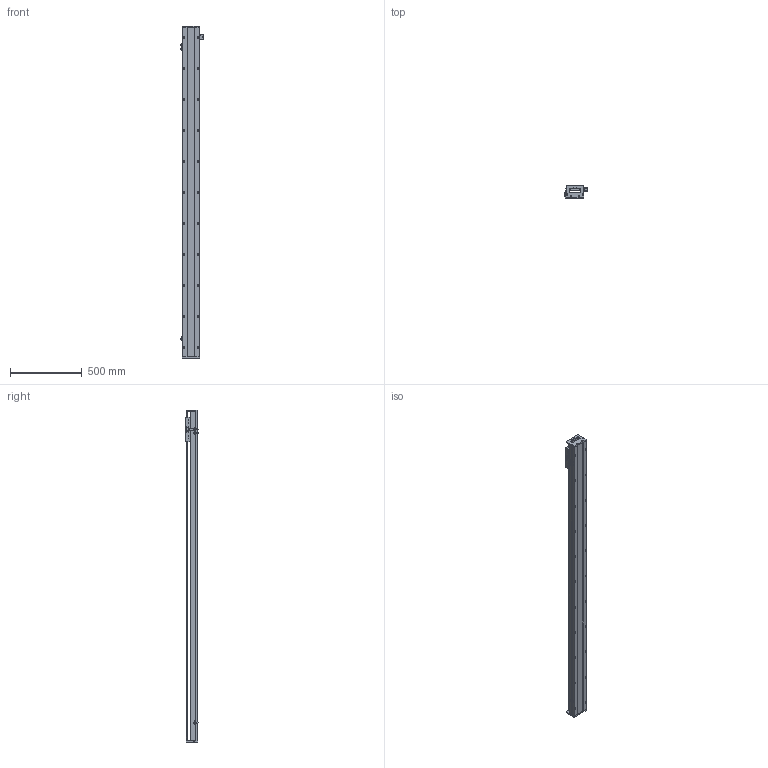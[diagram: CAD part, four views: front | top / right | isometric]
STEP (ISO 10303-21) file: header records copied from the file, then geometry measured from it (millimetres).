
FILE_DESCRIPTION (( 'STEP AP203' ), '1' );
FILE_NAME ('SKR12S-C1-S2046（简）.STEP', '2022-09-26T03:01:42', ( '' ), ( '' ), 'SwSTEP 2.0', 'SolidWorks 2018', '' );
FILE_SCHEMA (( 'CONFIG_CONTROL_DESIGN' ));
Length unit declared in the file: millimetre
Products named in the file (8): EE-SX672; SKR12滑台-170L（简）; 棠掑假蚾輸; SKR12菁釱-C1-S2046(潠); SIKO棠掑; SKR12S-C1-S2046（简）; SKR12耜啣; 覜茼え
Assembly tree (10 placements, depth 2):
  SKR12S-C1-S2046（简）
    SKR12菁釱-C1-S2046(潠)
    SKR12滑台-170L（简）
    SKR12耜啣  x2
    棠掑假蚾輸
    SIKO棠掑
    覜茼え
    EE-SX672  x3
Bounding box: 162.7 x 87.3 x 2316 mm (x, y, z)
Volume: 9918357.9 mm3; surface area: 1556238.3 mm2
Topology: 11 solids, 11 shells, 1116 faces, 2991 edges, 1887 vertices
Faces by surface type: cylinder 541, plane 421, cone 154
Entity records: 31503 total; most frequent: CARTESIAN_POINT 6819, DIRECTION 5089, ORIENTED_EDGE 4906, EDGE_CURVE 2453, AXIS2_PLACEMENT_3D 1901, VERTEX_POINT 1591, VECTOR 1287, LINE 1287
